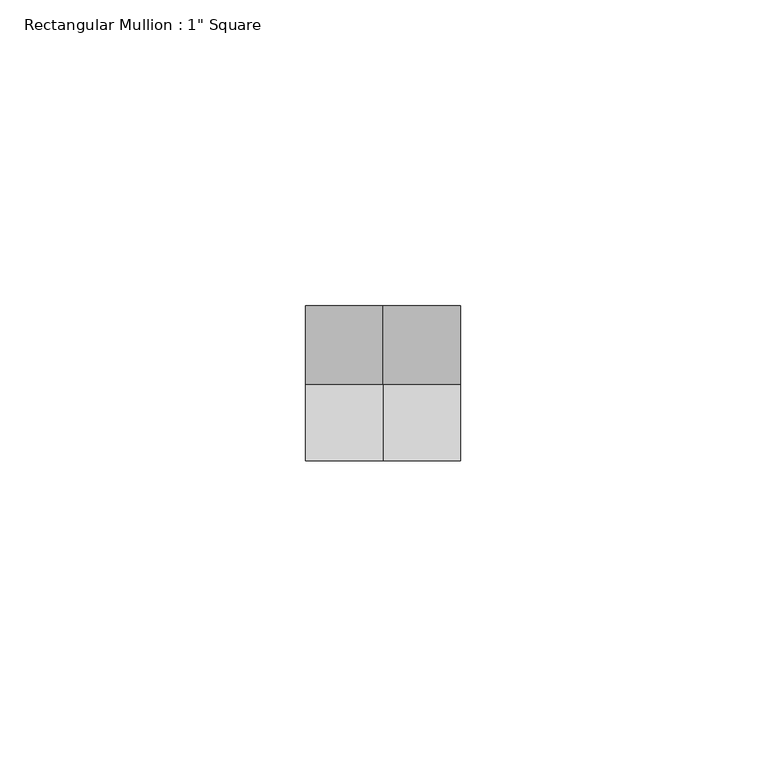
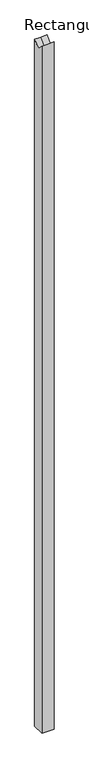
"""IFC4 building model written with IfcOpenShell, lengths in millimetres: member geometry."""

from ifc_helpers import new_model, si_unit, origin, place, context, project, spatial, faceted_brep, source, transform, mapped, element, save


def member_42213d33(model_context):
    return source(origin(), model_context, "Body", "Brep", [
        faceted_brep([(12.7, 12.7, -1485.9), (12.7, -12.7, -1485.9), (-12.7, -12.7, -1485.9), (-12.7, 12.7, -1485.9), (-12.7, 12.7, 7.3727202), (0.0, 12.7, 7.3727202), (12.7, 12.7, 7.3727202), (-12.7, -12.7, 7.5060081), (-12.7, -0.160889, -5.2597916), (12.7, -12.7, 7.5060081), (0.0, -12.7, 7.5060081), (12.7, -0.160889, -5.2597916), (0.0, -0.160889, -5.2597916)], [[[0, 1, 2, 3]], [[4, 5, 6, 0, 3]], [[7, 8, 4, 3, 2]], [[9, 10, 7, 2, 1]], [[6, 11, 9, 1, 0]], [[6, 5, 12, 11]], [[5, 4, 8, 12]], [[8, 7, 10, 12]], [[10, 9, 11, 12]]]),
    ])


if __name__ == "__main__":
    model = new_model("IFC4")
    model_context = context("Model", 3, world=origin())
    ifc_project = project(units=[si_unit("LENGTHUNIT", "METRE", prefix="MILLI")], contexts=[model_context])
    site = spatial("IfcSite", under=ifc_project)
    building = spatial("IfcBuilding", under=site)
    placement = place(None, origin())
    member_shape = member_42213d33(model_context)
    element("IfcMember", 1, ObjectType="Rectangular Mullion : 1\" Square", at=placement, inside=building, context=model_context, shape_type="MappedRepresentation", body=[
        mapped(member_shape, transform((0.0, 0.0, 0.0), x_axis=(1.0, 0.0, 0.0), y_axis=(0.0, 1.0, 0.0), z_axis=(0.0, 0.0, 1.0))),
    ])
    save(model, "model.ifc")
